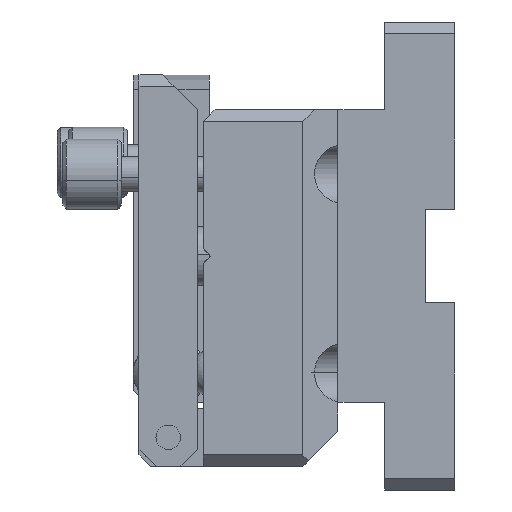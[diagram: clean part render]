
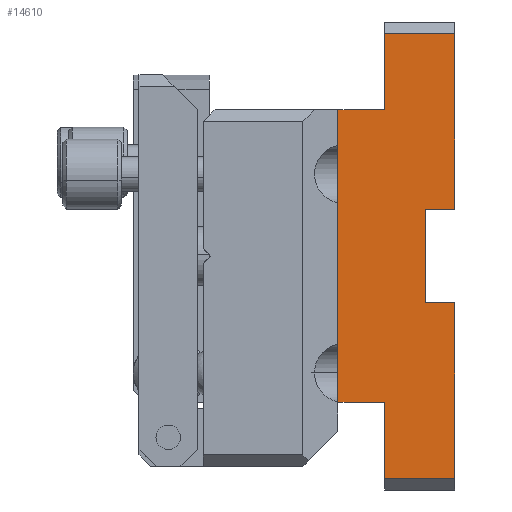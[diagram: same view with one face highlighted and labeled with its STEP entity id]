
A CAD part, left-side view. The second image highlights one B-rep face of the part: STEP entity #14610.
In plain terms, the highlighted planar face has unit normal (-1, 0, 0).
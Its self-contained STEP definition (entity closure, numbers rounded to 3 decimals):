
#242 = ORIENTED_EDGE ( 'NONE', *, *, #4477, .F. ) ;
#462 = DIRECTION ( 'NONE',  ( 0., 0., -1. ) ) ;
#566 = DIRECTION ( 'NONE',  ( 0., 0., -1. ) ) ;
#739 = LINE ( 'NONE', #6741, #12929 ) ;
#900 = CARTESIAN_POINT ( 'NONE',  ( 0., 10., -32.5 ) ) ;
#1143 = DIRECTION ( 'NONE',  ( 0., 0., -1. ) ) ;
#1243 = CARTESIAN_POINT ( 'NONE',  ( 0., 0., -16. ) ) ;
#1303 = VERTEX_POINT ( 'NONE', #2176 ) ;
#1651 = ORIENTED_EDGE ( 'NONE', *, *, #2065, .F. ) ;
#1759 = DIRECTION ( 'NONE',  ( 0., -1., 0. ) ) ;
#1812 = VECTOR ( 'NONE', #566, 1000. ) ;
#1970 = DIRECTION ( 'NONE',  ( -1., 0., 0. ) ) ;
#2065 = EDGE_CURVE ( 'NONE', #4390, #7809, #6710, .T. ) ;
#2107 = CARTESIAN_POINT ( 'NONE',  ( 0., 6., -39. ) ) ;
#2176 = CARTESIAN_POINT ( 'NONE',  ( 0., 10., -32.5 ) ) ;
#2573 = VERTEX_POINT ( 'NONE', #7740 ) ;
#2837 = CARTESIAN_POINT ( 'NONE',  ( 0., 6., -7.5 ) ) ;
#3019 = DIRECTION ( 'NONE',  ( 0., 1., 0. ) ) ;
#3239 = LINE ( 'NONE', #16288, #17906 ) ;
#3419 = VERTEX_POINT ( 'NONE', #8216 ) ;
#4390 = VERTEX_POINT ( 'NONE', #1243 ) ;
#4441 = VECTOR ( 'NONE', #17695, 1000. ) ;
#4477 = EDGE_CURVE ( 'NONE', #2573, #1303, #8832, .T. ) ;
#4714 = DIRECTION ( 'NONE',  ( 0., 1., 0. ) ) ;
#5275 = DIRECTION ( 'NONE',  ( 0., 0., 1. ) ) ;
#5634 = CARTESIAN_POINT ( 'NONE',  ( 0., 2.5, -16. ) ) ;
#5833 = VERTEX_POINT ( 'NONE', #6441 ) ;
#6315 = EDGE_CURVE ( 'NONE', #3419, #17556, #8336, .T. ) ;
#6441 = CARTESIAN_POINT ( 'NONE',  ( 0., 10., -7.5 ) ) ;
#6487 = CARTESIAN_POINT ( 'NONE',  ( 0., -1., -42.8 ) ) ;
#6516 = ORIENTED_EDGE ( 'NONE', *, *, #15876, .F. ) ;
#6573 = LINE ( 'NONE', #11520, #8799 ) ;
#6709 = LINE ( 'NONE', #14655, #1812 ) ;
#6710 = LINE ( 'NONE', #11803, #14247 ) ;
#6741 = CARTESIAN_POINT ( 'NONE',  ( 0., 6., -7.5 ) ) ;
#6760 = CARTESIAN_POINT ( 'NONE',  ( 0., 6., -1. ) ) ;
#7114 = ORIENTED_EDGE ( 'NONE', *, *, #8773, .F. ) ;
#7124 = VERTEX_POINT ( 'NONE', #6760 ) ;
#7460 = LINE ( 'NONE', #900, #14987 ) ;
#7507 = VECTOR ( 'NONE', #17044, 1000. ) ;
#7598 = VERTEX_POINT ( 'NONE', #7791 ) ;
#7642 = CARTESIAN_POINT ( 'NONE',  ( 0., 2.5, -16. ) ) ;
#7740 = CARTESIAN_POINT ( 'NONE',  ( 0., 6., -32.5 ) ) ;
#7791 = CARTESIAN_POINT ( 'NONE',  ( 0., 2.5, -24. ) ) ;
#7809 = VERTEX_POINT ( 'NONE', #5634 ) ;
#8065 = DIRECTION ( 'NONE',  ( 0., 0., 1. ) ) ;
#8103 = FACE_OUTER_BOUND ( 'NONE', #10692, .T. ) ;
#8199 = CARTESIAN_POINT ( 'NONE',  ( 0., 0., -24. ) ) ;
#8216 = CARTESIAN_POINT ( 'NONE',  ( 0., 6., -39. ) ) ;
#8285 = VERTEX_POINT ( 'NONE', #2837 ) ;
#8336 = LINE ( 'NONE', #13120, #9675 ) ;
#8773 = EDGE_CURVE ( 'NONE', #13537, #4390, #6709, .T. ) ;
#8780 = ORIENTED_EDGE ( 'NONE', *, *, #13061, .F. ) ;
#8799 = VECTOR ( 'NONE', #3019, 1000. ) ;
#8832 = LINE ( 'NONE', #11469, #7507 ) ;
#8877 = AXIS2_PLACEMENT_3D ( 'NONE', #6487, #1970, #16276 ) ;
#9053 = EDGE_CURVE ( 'NONE', #8285, #7124, #739, .T. ) ;
#9675 = VECTOR ( 'NONE', #1759, 1000. ) ;
#9943 = CARTESIAN_POINT ( 'NONE',  ( 0., 0., -24. ) ) ;
#10495 = CARTESIAN_POINT ( 'NONE',  ( 0., 10., -7.5 ) ) ;
#10631 = CARTESIAN_POINT ( 'NONE',  ( 0., 0., -1. ) ) ;
#10664 = EDGE_CURVE ( 'NONE', #5833, #8285, #17552, .T. ) ;
#10692 = EDGE_LOOP ( 'NONE', ( #16057, #16009, #6516, #15339, #8780, #1651, #7114, #13329, #11639, #14022, #14219, #242 ) ) ;
#11469 = CARTESIAN_POINT ( 'NONE',  ( 0., 6., -32.5 ) ) ;
#11520 = CARTESIAN_POINT ( 'NONE',  ( 0., 0., -1. ) ) ;
#11639 = ORIENTED_EDGE ( 'NONE', *, *, #9053, .F. ) ;
#11713 = LINE ( 'NONE', #8199, #18172 ) ;
#11803 = CARTESIAN_POINT ( 'NONE',  ( 0., 0., -16. ) ) ;
#12929 = VECTOR ( 'NONE', #5275, 1000. ) ;
#12996 = EDGE_CURVE ( 'NONE', #13537, #7124, #6573, .T. ) ;
#13061 = EDGE_CURVE ( 'NONE', #7809, #7598, #13672, .T. ) ;
#13120 = CARTESIAN_POINT ( 'NONE',  ( 0., 6., -39. ) ) ;
#13329 = ORIENTED_EDGE ( 'NONE', *, *, #12996, .T. ) ;
#13537 = VERTEX_POINT ( 'NONE', #10631 ) ;
#13640 = LINE ( 'NONE', #2107, #17421 ) ;
#13672 = LINE ( 'NONE', #7642, #17011 ) ;
#13926 = VERTEX_POINT ( 'NONE', #9943 ) ;
#14022 = ORIENTED_EDGE ( 'NONE', *, *, #10664, .F. ) ;
#14219 = ORIENTED_EDGE ( 'NONE', *, *, #16785, .F. ) ;
#14247 = VECTOR ( 'NONE', #4714, 1000. ) ;
#14610 = ADVANCED_FACE ( 'NONE', ( #8103 ), #17491, .T. ) ;
#14655 = CARTESIAN_POINT ( 'NONE',  ( 0., 0., -1. ) ) ;
#14750 = EDGE_CURVE ( 'NONE', #3419, #2573, #13640, .T. ) ;
#14779 = DIRECTION ( 'NONE',  ( 0., 0., 1. ) ) ;
#14819 = CARTESIAN_POINT ( 'NONE',  ( 0., 0., -39. ) ) ;
#14987 = VECTOR ( 'NONE', #8065, 1000. ) ;
#15339 = ORIENTED_EDGE ( 'NONE', *, *, #17251, .F. ) ;
#15876 = EDGE_CURVE ( 'NONE', #13926, #17556, #11713, .T. ) ;
#16009 = ORIENTED_EDGE ( 'NONE', *, *, #6315, .T. ) ;
#16057 = ORIENTED_EDGE ( 'NONE', *, *, #14750, .F. ) ;
#16276 = DIRECTION ( 'NONE',  ( 0., 0., 1. ) ) ;
#16288 = CARTESIAN_POINT ( 'NONE',  ( 0., 2.5, -24. ) ) ;
#16785 = EDGE_CURVE ( 'NONE', #1303, #5833, #7460, .T. ) ;
#17011 = VECTOR ( 'NONE', #462, 1000. ) ;
#17044 = DIRECTION ( 'NONE',  ( 0., 1., 0. ) ) ;
#17251 = EDGE_CURVE ( 'NONE', #7598, #13926, #3239, .T. ) ;
#17421 = VECTOR ( 'NONE', #14779, 1000. ) ;
#17491 = PLANE ( 'NONE',  #8877 ) ;
#17552 = LINE ( 'NONE', #10495, #4441 ) ;
#17556 = VERTEX_POINT ( 'NONE', #14819 ) ;
#17695 = DIRECTION ( 'NONE',  ( 0., -1., 0. ) ) ;
#17754 = DIRECTION ( 'NONE',  ( 0., -1., 0. ) ) ;
#17906 = VECTOR ( 'NONE', #17754, 1000. ) ;
#18172 = VECTOR ( 'NONE', #1143, 1000. ) ;
